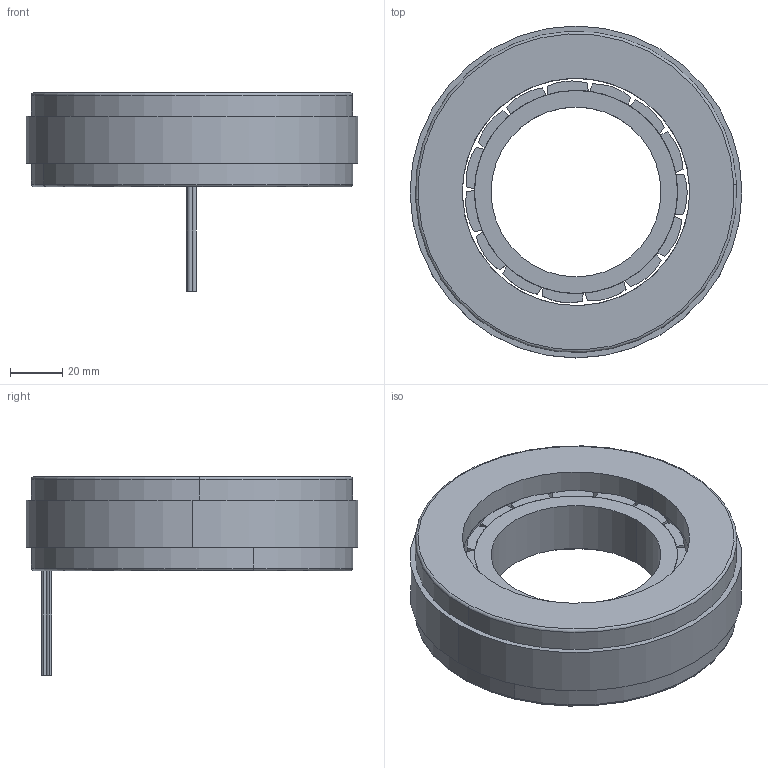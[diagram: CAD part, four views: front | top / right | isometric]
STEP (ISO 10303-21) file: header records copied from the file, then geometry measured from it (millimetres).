
FILE_DESCRIPTION (( 'STEP AP203' ), '1' );
FILE_NAME ('127LW01軞蚾饜.STEP', '2024-02-29T07:53:48', ( 'China' ), ( 'Microsoft' ), 'SwSTEP 2.0', 'SolidWorks 2017', '' );
FILE_SCHEMA (( 'CONFIG_CONTROL_DESIGN' ));
Length unit declared in the file: millimetre
Products named in the file (8): 隅赽; 绕组端部; 諾陑粣; 棠詩; 127LW01軞蚾饜; 竘堤盄; 蛌赽; 隅赽沺陑
Assembly tree (27 placements, depth 3):
  127LW01軞蚾饜
    隅赽
      隅赽沺陑
      绕组端部  x2
      竘堤盄
    蛌赽
      諾陑粣
      棠詩  x20
Bounding box: 127 x 127 x 76 mm (x, y, z)
Volume: 278223.8 mm3; surface area: 90516.3 mm2
Topology: 27 solids, 27 shells, 200 faces, 434 edges, 288 vertices
Faces by surface type: cylinder 102, plane 94, torus 4
Entity records: 2538 total; most frequent: DIRECTION 268, CARTESIAN_POINT 198, ORIENTED_EDGE 152, AXIS2_PLACEMENT_3D 120, LOCAL_TIME 94, CALENDAR_DATE 94, DATE_AND_TIME 94, COORDINATED_UNIVERSAL_TIME_OFFSET 94
